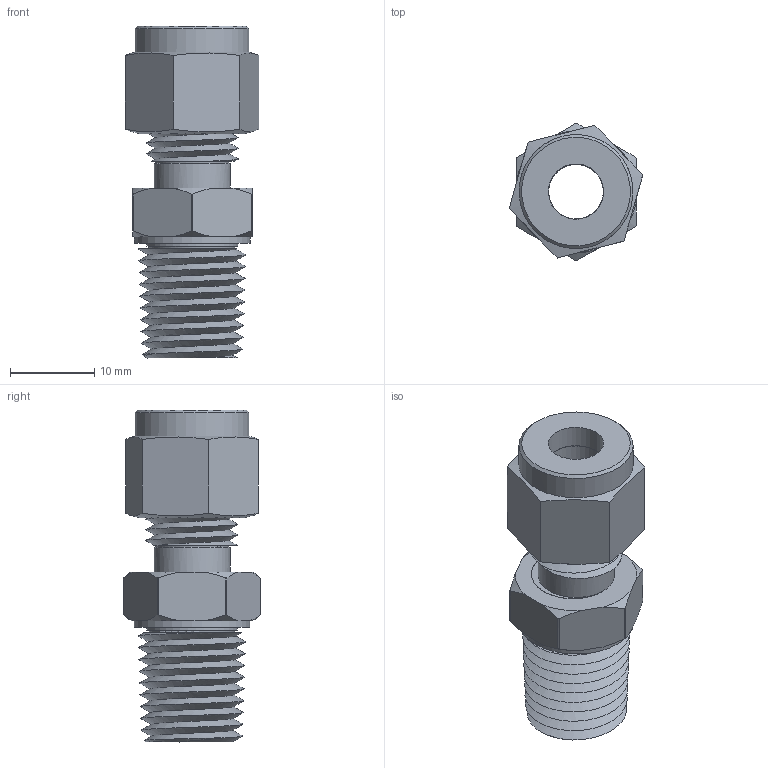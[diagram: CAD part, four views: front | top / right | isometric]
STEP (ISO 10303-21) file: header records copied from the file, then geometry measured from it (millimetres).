
FILE_DESCRIPTION(/* description */ (''),/* implementation_level */ '2;1');
FILE_NAME(/* name */ 'C:\Users\JN\Documents\CAD Drawings\The Sensor Connection\3D\CF\CF-0250-NPT\CF-0250-14-NPT.stp',/* time_stamp */ '2017-11-14T12:10:56-05:00',/* author */ ('JN'),/* organization */ (''),/* preprocessor_version */ 'ST-DEVELOPER v15.6',/* originating_system */ 'Autodesk Inventor 2015',/* authorisation */ '');
FILE_SCHEMA (('AUTOMOTIVE_DESIGN { 1 0 10303 214 3 1 1 }'));
Length unit declared in the file: inch
Products named in the file (5): CF-0250-NPT Bottom Ferrule; CF-0250-NPT Cap; CF-0250-NPT Top Ferrule; CF-0250-14-NPT Threaded Body; CF-0250-14-NPT
Assembly tree (4 placements, depth 2):
  CF-0250-14-NPT
    CF-0250-NPT Bottom Ferrule
    CF-0250-NPT Cap
    CF-0250-NPT Top Ferrule
    CF-0250-14-NPT Threaded Body
Bounding box: 15.86 x 16.33 x 39.38 mm (x, y, z)
Volume: 3415.7 mm3; surface area: 4581.4 mm2
Topology: 4 solids, 4 shells, 93 faces, 230 edges, 151 vertices
Faces by surface type: plane 36, cone 22, cylinder 22, bspline 9, torus 4
Full cylindrical faces by diameter (mm): 6.477 x1, 6.553 x2, 6.604 x1, 7.62 x1, 7.722 x1, 9.017 x2, 9.144 x1, 9.568 x1, 10.795 x1, 11.772 x1, 13.525 x1, 13.716 x1
Entity records: 8318 total; most frequent: CARTESIAN_POINT 6333, ORIENTED_EDGE 388, DIRECTION 347, EDGE_CURVE 194, AXIS2_PLACEMENT_3D 156, VERTEX_POINT 141, EDGE_LOOP 133, FACE_OUTER_BOUND 93
